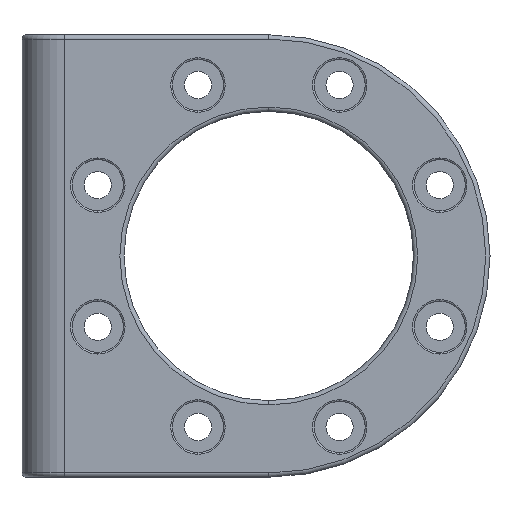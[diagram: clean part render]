
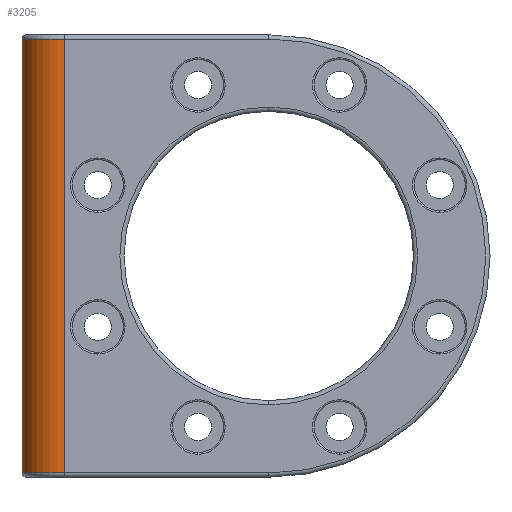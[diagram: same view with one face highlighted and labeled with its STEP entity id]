
A CAD part, left-side view. The second image highlights one B-rep face of the part: STEP entity #3205.
In plain terms, the highlighted cylindrical face has radius 5 mm (diameter 10 mm), a partial arc.
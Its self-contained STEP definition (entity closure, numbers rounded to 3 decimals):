
#128 = VERTEX_POINT ( 'NONE', #3976 ) ;
#260 = CARTESIAN_POINT ( 'NONE',  ( 2., -2., -25.5 ) ) ;
#406 = DIRECTION ( 'NONE',  ( 0., 0., -1. ) ) ;
#988 = VECTOR ( 'NONE', #6933, 1000. ) ;
#1071 = LINE ( 'NONE', #2876, #6681 ) ;
#1365 = EDGE_CURVE ( 'NONE', #6979, #128, #3617, .T. ) ;
#1574 = CARTESIAN_POINT ( 'NONE',  ( 2., -2., 0. ) ) ;
#1706 = VERTEX_POINT ( 'NONE', #3135 ) ;
#2023 = EDGE_CURVE ( 'NONE', #6979, #4358, #2743, .T. ) ;
#2033 = CARTESIAN_POINT ( 'NONE',  ( -3., -2., 25.5 ) ) ;
#2095 = DIRECTION ( 'NONE',  ( 0., 0., 1. ) ) ;
#2212 = DIRECTION ( 'NONE',  ( -1., 0., 0. ) ) ;
#2258 = ORIENTED_EDGE ( 'NONE', *, *, #2023, .F. ) ;
#2540 = AXIS2_PLACEMENT_3D ( 'NONE', #260, #2095, #3323 ) ;
#2743 = LINE ( 'NONE', #4539, #988 ) ;
#2876 = CARTESIAN_POINT ( 'NONE',  ( 2., 3., 0. ) ) ;
#2882 = EDGE_LOOP ( 'NONE', ( #2258, #7629, #6556, #7453 ) ) ;
#3135 = CARTESIAN_POINT ( 'NONE',  ( 2., 3., -25.5 ) ) ;
#3205 = ADVANCED_FACE ( 'NONE', ( #6951 ), #6290, .T. ) ;
#3285 = EDGE_CURVE ( 'NONE', #1706, #128, #1071, .T. ) ;
#3323 = DIRECTION ( 'NONE',  ( 1., 0., 0. ) ) ;
#3385 = DIRECTION ( 'NONE',  ( 1., 0., 0. ) ) ;
#3487 = CARTESIAN_POINT ( 'NONE',  ( -3., -2., -25.5 ) ) ;
#3617 = CIRCLE ( 'NONE', #4749, 5. ) ;
#3782 = CIRCLE ( 'NONE', #2540, 5. ) ;
#3967 = DIRECTION ( 'NONE',  ( 0., 0., 1. ) ) ;
#3976 = CARTESIAN_POINT ( 'NONE',  ( 2., 3., 25.5 ) ) ;
#4358 = VERTEX_POINT ( 'NONE', #3487 ) ;
#4539 = CARTESIAN_POINT ( 'NONE',  ( -3., -2., -26. ) ) ;
#4749 = AXIS2_PLACEMENT_3D ( 'NONE', #5187, #406, #2212 ) ;
#5187 = CARTESIAN_POINT ( 'NONE',  ( 2., -2., 25.5 ) ) ;
#5950 = AXIS2_PLACEMENT_3D ( 'NONE', #1574, #3967, #3385 ) ;
#6290 = CYLINDRICAL_SURFACE ( 'NONE', #5950, 5. ) ;
#6508 = DIRECTION ( 'NONE',  ( 0., 0., 1. ) ) ;
#6556 = ORIENTED_EDGE ( 'NONE', *, *, #3285, .F. ) ;
#6681 = VECTOR ( 'NONE', #6508, 1000. ) ;
#6933 = DIRECTION ( 'NONE',  ( 0., 0., -1. ) ) ;
#6951 = FACE_OUTER_BOUND ( 'NONE', #2882, .T. ) ;
#6979 = VERTEX_POINT ( 'NONE', #2033 ) ;
#7453 = ORIENTED_EDGE ( 'NONE', *, *, #7741, .T. ) ;
#7629 = ORIENTED_EDGE ( 'NONE', *, *, #1365, .T. ) ;
#7741 = EDGE_CURVE ( 'NONE', #1706, #4358, #3782, .T. ) ;
